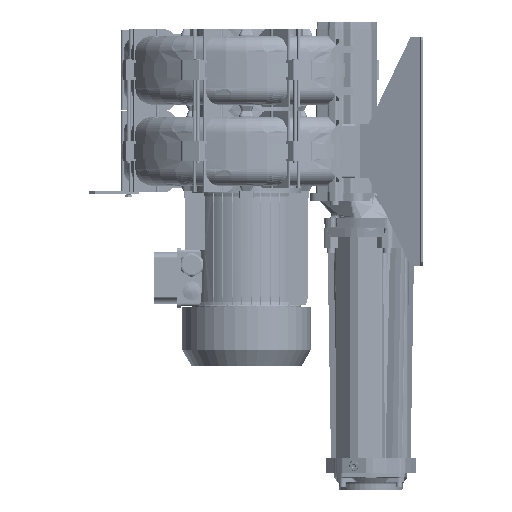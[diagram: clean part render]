
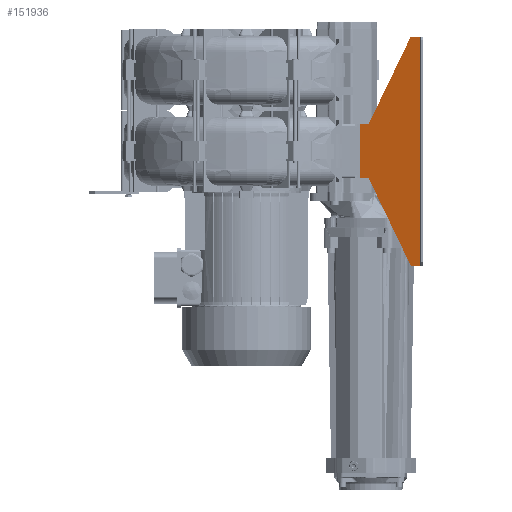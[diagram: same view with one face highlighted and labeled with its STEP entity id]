
A CAD part, left-side view. The second image highlights one B-rep face of the part: STEP entity #151936.
In plain terms, the highlighted planar face has unit normal (-0.946, 0.326, 0).
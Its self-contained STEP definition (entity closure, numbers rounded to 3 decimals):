
#1318 = ORIENTED_EDGE ( 'NONE', *, *, #55015, .T. ) ;
#6797 = CARTESIAN_POINT ( 'NONE',  ( -143.865, -184.008, 188.7 ) ) ;
#9259 = VERTEX_POINT ( 'NONE', #43523 ) ;
#13410 = LINE ( 'NONE', #122223, #57731 ) ;
#13411 = LINE ( 'NONE', #285093, #21996 ) ;
#13976 = LINE ( 'NONE', #130014, #95002 ) ;
#16858 = DIRECTION ( 'NONE',  ( 0., 0., -1. ) ) ;
#18447 = DIRECTION ( 'NONE',  ( 0.946, -0.326, 0. ) ) ;
#19735 = ORIENTED_EDGE ( 'NONE', *, *, #51432, .F. ) ;
#20660 = LINE ( 'NONE', #155813, #231650 ) ;
#21996 = VECTOR ( 'NONE', #105930, 1000. ) ;
#27932 = AXIS2_PLACEMENT_3D ( 'NONE', #130158, #18447, #157967 ) ;
#33296 = VECTOR ( 'NONE', #83095, 1000. ) ;
#35746 = DIRECTION ( 'NONE',  ( 0.326, 0.946, 0. ) ) ;
#43523 = CARTESIAN_POINT ( 'NONE',  ( -139.554, -171.489, 106.5 ) ) ;
#49097 = VERTEX_POINT ( 'NONE', #50258 ) ;
#50258 = CARTESIAN_POINT ( 'NONE',  ( -170.488, -261.326, 320.1 ) ) ;
#51432 = EDGE_CURVE ( 'NONE', #159601, #49097, #20660, .T. ) ;
#55015 = EDGE_CURVE ( 'NONE', #263105, #115556, #125426, .T. ) ;
#57731 = VECTOR ( 'NONE', #213167, 1000. ) ;
#59217 = CARTESIAN_POINT ( 'NONE',  ( -143.865, -184.008, 106.5 ) ) ;
#62088 = ORIENTED_EDGE ( 'NONE', *, *, #183604, .T. ) ;
#64746 = DIRECTION ( 'NONE',  ( -0.326, -0.946, 0. ) ) ;
#66927 = CARTESIAN_POINT ( 'NONE',  ( -165.663, -247.312, -24.9 ) ) ;
#74522 = CARTESIAN_POINT ( 'NONE',  ( -170.488, -261.326, -24.9 ) ) ;
#83095 = DIRECTION ( 'NONE',  ( 0., 0., -1. ) ) ;
#86178 = DIRECTION ( 'NONE',  ( -0.326, -0.946, 0. ) ) ;
#91991 = LINE ( 'NONE', #109701, #202798 ) ;
#92846 = VERTEX_POINT ( 'NONE', #66927 ) ;
#95002 = VECTOR ( 'NONE', #16858, 1000. ) ;
#105930 = DIRECTION ( 'NONE',  ( -0.148, -0.429, -0.891 ) ) ;
#109701 = CARTESIAN_POINT ( 'NONE',  ( -139.554, -171.489, -24.9 ) ) ;
#115556 = VERTEX_POINT ( 'NONE', #141094 ) ;
#122223 = CARTESIAN_POINT ( 'NONE',  ( -165.663, -247.312, 320.1 ) ) ;
#125426 = LINE ( 'NONE', #256117, #284079 ) ;
#127228 = CARTESIAN_POINT ( 'NONE',  ( -139.554, -171.489, 320.1 ) ) ;
#130014 = CARTESIAN_POINT ( 'NONE',  ( -170.488, -261.326, 320.1 ) ) ;
#130158 = CARTESIAN_POINT ( 'NONE',  ( -139.554, -171.489, 320.1 ) ) ;
#134506 = VECTOR ( 'NONE', #148855, 1000. ) ;
#141094 = CARTESIAN_POINT ( 'NONE',  ( -139.554, -171.489, 188.7 ) ) ;
#148855 = DIRECTION ( 'NONE',  ( -0.326, -0.946, 0. ) ) ;
#151936 = ADVANCED_FACE ( 'NONE', ( #246026 ), #222546, .F. ) ;
#152663 = EDGE_LOOP ( 'NONE', ( #278047, #1318, #227500, #251038, #163253, #62088, #286384, #19735 ) ) ;
#155813 = CARTESIAN_POINT ( 'NONE',  ( -139.554, -171.489, 320.1 ) ) ;
#157967 = DIRECTION ( 'NONE',  ( -0.326, -0.946, 0. ) ) ;
#159601 = VERTEX_POINT ( 'NONE', #238981 ) ;
#163253 = ORIENTED_EDGE ( 'NONE', *, *, #275267, .T. ) ;
#164378 = EDGE_CURVE ( 'NONE', #159601, #263105, #13410, .T. ) ;
#179420 = VERTEX_POINT ( 'NONE', #74522 ) ;
#183604 = EDGE_CURVE ( 'NONE', #92846, #179420, #91991, .T. ) ;
#202798 = VECTOR ( 'NONE', #86178, 1000. ) ;
#205304 = EDGE_CURVE ( 'NONE', #115556, #9259, #238760, .T. ) ;
#209196 = EDGE_CURVE ( 'NONE', #49097, #179420, #13976, .T. ) ;
#213167 = DIRECTION ( 'NONE',  ( 0.148, 0.429, -0.891 ) ) ;
#214905 = LINE ( 'NONE', #59217, #134506 ) ;
#222546 = PLANE ( 'NONE',  #27932 ) ;
#227500 = ORIENTED_EDGE ( 'NONE', *, *, #205304, .T. ) ;
#231650 = VECTOR ( 'NONE', #64746, 1000. ) ;
#238760 = LINE ( 'NONE', #127228, #33296 ) ;
#238981 = CARTESIAN_POINT ( 'NONE',  ( -165.663, -247.312, 320.1 ) ) ;
#246026 = FACE_OUTER_BOUND ( 'NONE', #152663, .T. ) ;
#251038 = ORIENTED_EDGE ( 'NONE', *, *, #265479, .T. ) ;
#254979 = CARTESIAN_POINT ( 'NONE',  ( -143.865, -184.008, 106.5 ) ) ;
#256117 = CARTESIAN_POINT ( 'NONE',  ( -143.865, -184.008, 188.7 ) ) ;
#263105 = VERTEX_POINT ( 'NONE', #6797 ) ;
#265479 = EDGE_CURVE ( 'NONE', #9259, #278697, #214905, .T. ) ;
#275267 = EDGE_CURVE ( 'NONE', #278697, #92846, #13411, .T. ) ;
#278047 = ORIENTED_EDGE ( 'NONE', *, *, #164378, .T. ) ;
#278697 = VERTEX_POINT ( 'NONE', #254979 ) ;
#284079 = VECTOR ( 'NONE', #35746, 1000. ) ;
#285093 = CARTESIAN_POINT ( 'NONE',  ( -165.663, -247.312, -24.9 ) ) ;
#286384 = ORIENTED_EDGE ( 'NONE', *, *, #209196, .F. ) ;
